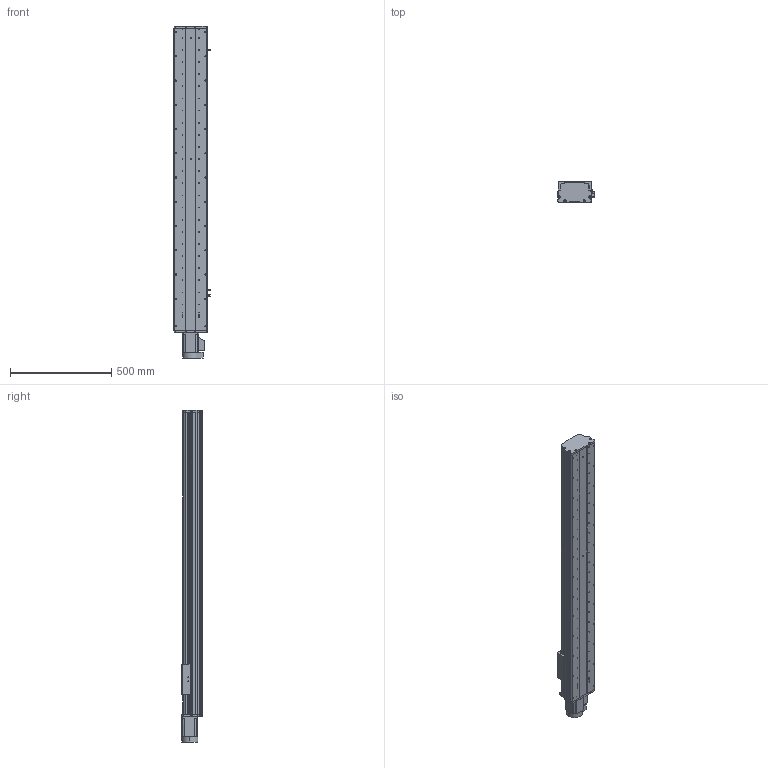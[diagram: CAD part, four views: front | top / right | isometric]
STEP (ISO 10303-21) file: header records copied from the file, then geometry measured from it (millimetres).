
FILE_DESCRIPTION (( 'STEP AP214' ), '1' );
FILE_NAME ('KSD165S-S1200-MN-CM .STEP', '2017-08-07T08:24:08', ( '微软用户' ), ( '微软中国' ), 'SwSTEP 2.0', 'SolidWorks 2014', '' );
FILE_SCHEMA (( 'AUTOMOTIVE_DESIGN' ));
Length unit declared in the file: millimetre
Products named in the file (12): KSD165模组-防尘盖1-1200行程-直连不带电机座; 拸秶雄ん750W侜督萇儂; KSD165模组-直连不带电机座电机连接板; KSD165耀郪-佪裝-滅袉菜-3 -; C44ㄜ1912WP; 覜茼え68遵圉猾敕; U倰嫖萇假蚾璃; U倰嫖萇EEㄜSX672; KSD165耀郪-綴傷啣1; KSD165模组-丝杆滑动座-最新版; KSD165S-S1200-MN-CM  ; KSD165模组底板-1200行程-直连不带电机座
Assembly tree (15 placements, depth 2):
  KSD165S-S1200-MN-CM  
    KSD165模组-丝杆滑动座-最新版
    KSD165耀郪-綴傷啣1
    U倰嫖萇EEㄜSX672  x3
    U倰嫖萇假蚾璃  x3
    覜茼え68遵圉猾敕
    C44ㄜ1912WP
    KSD165耀郪-佪裝-滅袉菜-3 -
    KSD165模组-直连不带电机座电机连接板
    拸秶雄ん750W侜督萇儂
    KSD165模组-防尘盖1-1200行程-直连不带电机座
    KSD165模组底板-1200行程-直连不带电机座
Bounding box: 178.7 x 104 x 1643 mm (x, y, z)
Volume: 8768768.1 mm3; surface area: 1963012.1 mm2
Topology: 16 solids, 16 shells, 1291 faces, 3628 edges, 2357 vertices
Faces by surface type: cylinder 711, plane 503, cone 77
Entity records: 41575 total; most frequent: CARTESIAN_POINT 9243, DIRECTION 6165, ORIENTED_EDGE 5936, EDGE_CURVE 2968, AXIS2_PLACEMENT_3D 2335, VERTEX_POINT 1949, LINE 1495, VECTOR 1495
